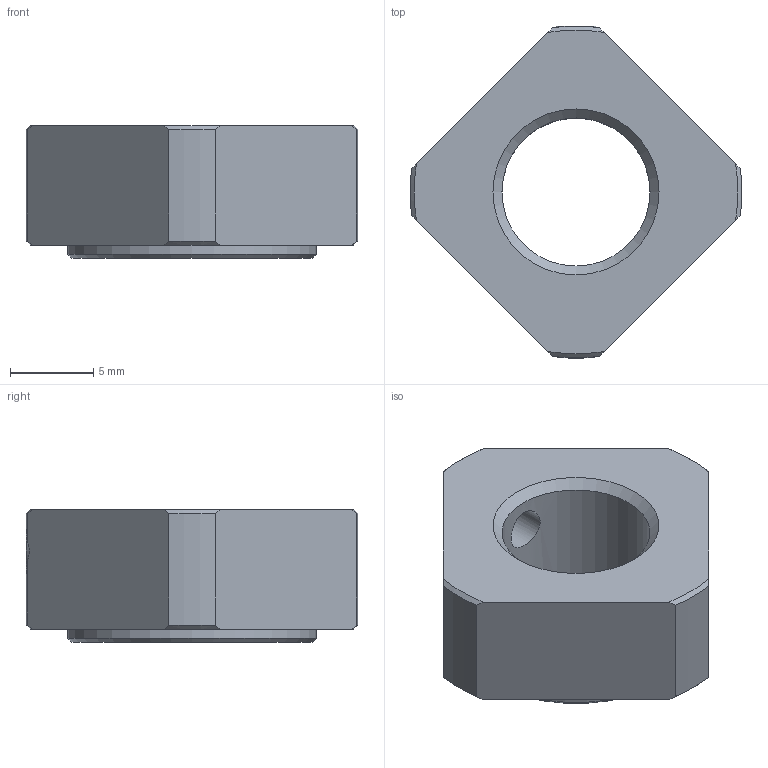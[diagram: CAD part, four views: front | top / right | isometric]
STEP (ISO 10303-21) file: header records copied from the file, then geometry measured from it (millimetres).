
FILE_DESCRIPTION(/* description */ ('STEP AP203'),/* implementation_level */ '2;1');
FILE_NAME(/* name */ 'RN 10',/* time_stamp */ '2025-06-11T07:41:12+02:00',/* author */ ('License CC BY-ND 4.0'),/* organization */ ('CADENAS'),/* preprocessor_version */ 'ST-DEVELOPER v19.3',/* originating_system */ 'PARTsolutions',/* authorisation */ ' ');
FILE_SCHEMA (('CONFIG_CONTROL_DESIGN'));
Length unit declared in the file: millimetre
Products named in the file (1): RN 10
Bounding box: 19.98 x 19.99 x 8 mm (x, y, z)
Volume: 1411.2 mm3; surface area: 1058 mm2
Topology: 1 solids, 1 shells, 37 faces, 92 edges, 60 vertices
Faces by surface type: plane 16, cone 12, cylinder 9
Full cylindrical faces by diameter (mm): 2.459 x1, 3 x1, 8.917 x1, 15 x1
Entity records: 1119 total; most frequent: CARTESIAN_POINT 250, DIRECTION 168, ORIENTED_EDGE 166, EDGE_CURVE 83, AXIS2_PLACEMENT_3D 66, VERTEX_POINT 59, EDGE_LOOP 50, FACE_BOUND 50
